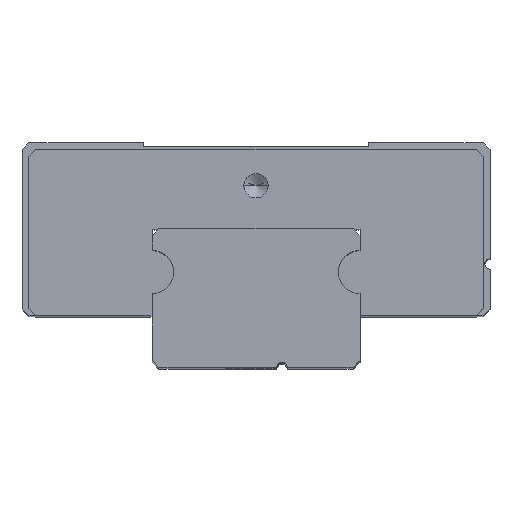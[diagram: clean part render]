
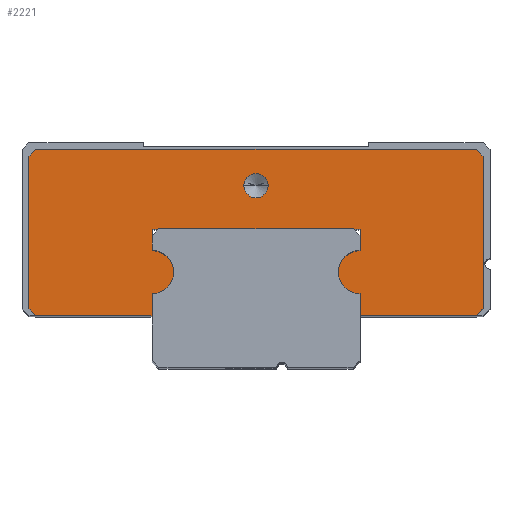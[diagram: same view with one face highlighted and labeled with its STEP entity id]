
A CAD part, top view. The second image highlights one B-rep face of the part: STEP entity #2221.
In plain terms, the highlighted planar face has unit normal (0, 0, 1).
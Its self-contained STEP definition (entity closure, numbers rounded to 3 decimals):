
#1272=CARTESIAN_POINT('',(-6.,5.5,22.7));
#1273=DIRECTION('',(0.,0.,-1.));
#1274=DIRECTION('',(0.,1.,0.));
#1275=AXIS2_PLACEMENT_3D('',#1272,#1273,#1274);
#1277=DIRECTION('',(1.,0.,0.));
#1278=VECTOR('',#1277,6.7);
#1279=CARTESIAN_POINT('',(-12.7,3.,22.7));
#1280=LINE('',#1279,#1278);
#1281=DIRECTION('',(0.707,-0.707,0.));
#1282=VECTOR('',#1281,0.566);
#1283=CARTESIAN_POINT('',(-13.1,3.4,22.7));
#1284=LINE('',#1283,#1282);
#1285=DIRECTION('',(0.,-1.,0.));
#1286=VECTOR('',#1285,8.8);
#1287=CARTESIAN_POINT('',(-13.1,12.2,22.7));
#1288=LINE('',#1287,#1286);
#1289=DIRECTION('',(-0.707,-0.707,0.));
#1290=VECTOR('',#1289,0.566);
#1291=CARTESIAN_POINT('',(-12.7,12.6,22.7));
#1292=LINE('',#1291,#1290);
#1293=DIRECTION('',(-1.,0.,0.));
#1294=VECTOR('',#1293,25.4);
#1295=CARTESIAN_POINT('',(12.7,12.6,22.7));
#1296=LINE('',#1295,#1294);
#1297=DIRECTION('',(-0.707,0.707,0.));
#1298=VECTOR('',#1297,0.566);
#1299=CARTESIAN_POINT('',(13.1,12.2,22.7));
#1300=LINE('',#1299,#1298);
#1301=DIRECTION('',(0.707,0.707,0.));
#1302=VECTOR('',#1301,0.566);
#1303=CARTESIAN_POINT('',(12.7,3.,22.7));
#1304=LINE('',#1303,#1302);
#1305=DIRECTION('',(1.,0.,0.));
#1306=VECTOR('',#1305,6.7);
#1307=CARTESIAN_POINT('',(6.,3.,22.7));
#1308=LINE('',#1307,#1306);
#1309=CARTESIAN_POINT('',(6.,5.5,22.7));
#1310=DIRECTION('',(0.,0.,-1.));
#1311=DIRECTION('',(0.,-1.,0.));
#1312=AXIS2_PLACEMENT_3D('',#1309,#1310,#1311);
#1314=CARTESIAN_POINT('',(0.,10.5,22.7));
#1315=DIRECTION('',(0.,0.,-1.));
#1316=DIRECTION('',(-1.,0.,0.));
#1317=AXIS2_PLACEMENT_3D('',#1314,#1315,#1316);
#1319=CARTESIAN_POINT('',(0.,10.5,22.7));
#1320=DIRECTION('',(0.,0.,-1.));
#1321=DIRECTION('',(1.,0.,0.));
#1322=AXIS2_PLACEMENT_3D('',#1319,#1320,#1321);
#1400=DIRECTION('',(0.,-1.,0.));
#1401=VECTOR('',#1400,1.25);
#1402=CARTESIAN_POINT('',(-6.,8.,22.7));
#1403=LINE('',#1402,#1401);
#1408=DIRECTION('',(-1.,0.,0.));
#1409=VECTOR('',#1408,12.);
#1410=CARTESIAN_POINT('',(6.,8.,22.7));
#1411=LINE('',#1410,#1409);
#1416=DIRECTION('',(0.,1.,0.));
#1417=VECTOR('',#1416,1.25);
#1418=CARTESIAN_POINT('',(6.,6.75,22.7));
#1419=LINE('',#1418,#1417);
#1428=DIRECTION('',(0.,1.,0.));
#1429=VECTOR('',#1428,1.25);
#1430=CARTESIAN_POINT('',(6.,3.,22.7));
#1431=LINE('',#1430,#1429);
#1844=DIRECTION('',(0.,-1.,0.));
#1845=VECTOR('',#1844,8.8);
#1846=CARTESIAN_POINT('',(13.1,12.2,22.7));
#1847=LINE('',#1846,#1845);
#1860=DIRECTION('',(0.,-1.,0.));
#1861=VECTOR('',#1860,1.25);
#1862=CARTESIAN_POINT('',(-6.,4.25,22.7));
#1863=LINE('',#1862,#1861);
#1960=CARTESIAN_POINT('',(-13.1,12.2,22.7));
#1961=CARTESIAN_POINT('',(-13.1,3.4,22.7));
#1962=VERTEX_POINT('',#1960);
#1963=VERTEX_POINT('',#1961);
#1964=CARTESIAN_POINT('',(-12.7,3.,22.7));
#1965=VERTEX_POINT('',#1964);
#1966=CARTESIAN_POINT('',(-6.,3.,22.7));
#1967=VERTEX_POINT('',#1966);
#1968=CARTESIAN_POINT('',(-6.,4.25,22.7));
#1969=VERTEX_POINT('',#1968);
#1970=CARTESIAN_POINT('',(-6.,8.,22.7));
#1971=CARTESIAN_POINT('',(-6.,6.75,22.7));
#1972=VERTEX_POINT('',#1970);
#1973=VERTEX_POINT('',#1971);
#1974=CARTESIAN_POINT('',(6.,8.,22.7));
#1975=VERTEX_POINT('',#1974);
#1976=CARTESIAN_POINT('',(6.,6.75,22.7));
#1977=VERTEX_POINT('',#1976);
#1978=CARTESIAN_POINT('',(6.,3.,22.7));
#1979=CARTESIAN_POINT('',(6.,4.25,22.7));
#1980=VERTEX_POINT('',#1978);
#1981=VERTEX_POINT('',#1979);
#1982=CARTESIAN_POINT('',(12.7,3.,22.7));
#1983=VERTEX_POINT('',#1982);
#1984=CARTESIAN_POINT('',(13.1,3.4,22.7));
#1985=VERTEX_POINT('',#1984);
#1986=CARTESIAN_POINT('',(13.1,12.2,22.7));
#1987=VERTEX_POINT('',#1986);
#1988=CARTESIAN_POINT('',(12.7,12.6,22.7));
#1989=VERTEX_POINT('',#1988);
#1990=CARTESIAN_POINT('',(-12.7,12.6,22.7));
#1991=VERTEX_POINT('',#1990);
#2162=CARTESIAN_POINT('',(-0.7,10.5,22.7));
#2163=VERTEX_POINT('',#2162);
#2164=CARTESIAN_POINT('',(0.7,10.5,22.7));
#2165=VERTEX_POINT('',#2164);
#2176=CARTESIAN_POINT('',(13.5,6.,22.7));
#2177=DIRECTION('',(0.,0.,1.));
#2178=DIRECTION('',(1.,0.,0.));
#2179=AXIS2_PLACEMENT_3D('',#2176,#2177,#2178);
#2180=PLANE('',#2179);
#2182=ORIENTED_EDGE('',*,*,#2181,.T.);
#2184=ORIENTED_EDGE('',*,*,#2183,.T.);
#2186=ORIENTED_EDGE('',*,*,#2185,.F.);
#2188=ORIENTED_EDGE('',*,*,#2187,.F.);
#2190=ORIENTED_EDGE('',*,*,#2189,.F.);
#2192=ORIENTED_EDGE('',*,*,#2191,.F.);
#2194=ORIENTED_EDGE('',*,*,#2193,.F.);
#2196=ORIENTED_EDGE('',*,*,#2195,.F.);
#2198=ORIENTED_EDGE('',*,*,#2197,.T.);
#2200=ORIENTED_EDGE('',*,*,#2199,.F.);
#2202=ORIENTED_EDGE('',*,*,#2201,.F.);
#2204=ORIENTED_EDGE('',*,*,#2203,.T.);
#2206=ORIENTED_EDGE('',*,*,#2205,.T.);
#2208=ORIENTED_EDGE('',*,*,#2207,.T.);
#2210=ORIENTED_EDGE('',*,*,#2209,.T.);
#2212=ORIENTED_EDGE('',*,*,#2211,.T.);
#2213=EDGE_LOOP('',(#2182,#2184,#2186,#2188,#2190,#2192,#2194,#2196,#2198,#2200,
#2202,#2204,#2206,#2208,#2210,#2212));
#2214=FACE_OUTER_BOUND('',#2213,.F.);
#2216=ORIENTED_EDGE('',*,*,#2215,.F.);
#2218=ORIENTED_EDGE('',*,*,#2217,.F.);
#2219=EDGE_LOOP('',(#2216,#2218));
#2220=FACE_BOUND('',#2219,.F.);
#2221=ADVANCED_FACE('',(#2214,#2220),#2180,.T.);
#1276=CIRCLE('',#1275,1.25);
#1313=CIRCLE('',#1312,1.25);
#1318=CIRCLE('',#1317,0.7);
#1323=CIRCLE('',#1322,0.7);
#2181=EDGE_CURVE('',#1973,#1969,#1276,.T.);
#2183=EDGE_CURVE('',#1969,#1967,#1863,.T.);
#2185=EDGE_CURVE('',#1965,#1967,#1280,.T.);
#2187=EDGE_CURVE('',#1963,#1965,#1284,.T.);
#2189=EDGE_CURVE('',#1962,#1963,#1288,.T.);
#2191=EDGE_CURVE('',#1991,#1962,#1292,.T.);
#2193=EDGE_CURVE('',#1989,#1991,#1296,.T.);
#2195=EDGE_CURVE('',#1987,#1989,#1300,.T.);
#2197=EDGE_CURVE('',#1987,#1985,#1847,.T.);
#2199=EDGE_CURVE('',#1983,#1985,#1304,.T.);
#2201=EDGE_CURVE('',#1980,#1983,#1308,.T.);
#2203=EDGE_CURVE('',#1980,#1981,#1431,.T.);
#2205=EDGE_CURVE('',#1981,#1977,#1313,.T.);
#2207=EDGE_CURVE('',#1977,#1975,#1419,.T.);
#2209=EDGE_CURVE('',#1975,#1972,#1411,.T.);
#2211=EDGE_CURVE('',#1972,#1973,#1403,.T.);
#2215=EDGE_CURVE('',#2163,#2165,#1318,.T.);
#2217=EDGE_CURVE('',#2165,#2163,#1323,.T.);
